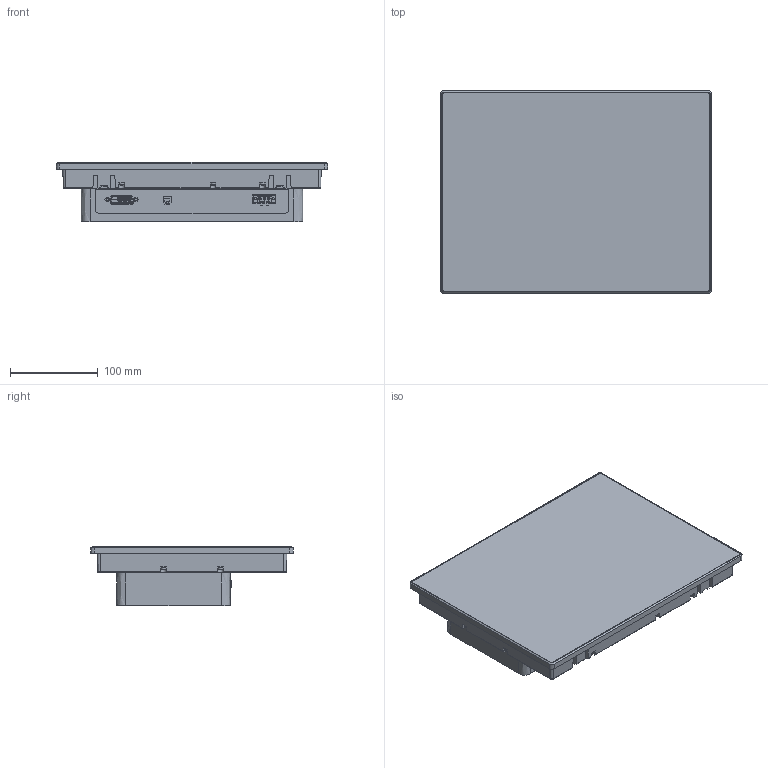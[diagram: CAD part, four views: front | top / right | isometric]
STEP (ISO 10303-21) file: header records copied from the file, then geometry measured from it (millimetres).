
FILE_DESCRIPTION((''),'2;1');
FILE_NAME('SIMPL_ASM_1_ASM_2_ASM','2021-06-02T09:37:44',('danae.lavaud'),(''),'CREO PARAMETRIC BY PTC INC, 2018260','CREO PARAMETRIC BY PTC INC, 2018260','');
FILE_SCHEMA(('CONFIG_CONTROL_DESIGN'));
Products named in the file (14): PRT0001_1_1_1_1_1; HUA1256901_1_1_1_1_1_1_2; HUA1145401_1_1_1_1_1_1_2; ASM0005_ASM_1_ASM_1_1_ASM_1_ASM_ASM; SCREW_MSC_XREC_PAN_M3X36_1_1_1_; ASM0005_ASM_1_ASM_1_ASM_1_ASM_1_ASM; PRT0001_1_1_1_1_1_1_7_1_1; DISPLAY_ADAPTER_20200611_1_2_10; DISPLAY_ADAPTER_20200611_1_2_12; DISPLAY_ADAPTER_20200611_1_2_11_ASM; BROCHE_ASM_1_ASM_1_ASM_1_ASM; SIMPL_ASM_1_ASM_1_ASM_1_ASM_1_A_ASM; PFXFP6600WCD_ASM_1_ASM_1_ASM; SIMPL_ASM_1_ASM_2_ASM
Assembly tree (34 placements, depth 6):
  SIMPL_ASM_1_ASM_2_ASM
    PFXFP6600WCD_ASM_1_ASM_1_ASM
      SIMPL_ASM_1_ASM_1_ASM_1_ASM_1_A_ASM
        PRT0001_1_1_1_1_1
        ASM0005_ASM_1_ASM_1_1_ASM_1_ASM_ASM
          HUA1256901_1_1_1_1_1_1_2  x14
          HUA1145401_1_1_1_1_1_1_2  x4
        ASM0005_ASM_1_ASM_1_ASM_1_ASM_1_ASM
          SCREW_MSC_XREC_PAN_M3X36_1_1_1_  x6
        PRT0001_1_1_1_1_1_1_7_1_1
        BROCHE_ASM_1_ASM_1_ASM_1_ASM
          DISPLAY_ADAPTER_20200611_1_2_11_ASM
            DISPLAY_ADAPTER_20200611_1_2_10
            DISPLAY_ADAPTER_20200611_1_2_12
Bounding box: 308.5 x 230.5 x 67.5 mm (x, y, z)
Volume: 3094706.1 mm3; surface area: 306050.3 mm2
Topology: 28 solids, 50 shells, 3951 faces, 11356 edges, 7350 vertices
Faces by surface type: plane 2382, cylinder 1153, cone 224, torus 112, sphere 48, extrusion 20, bspline 12
Entity records: 109540 total; most frequent: CARTESIAN_POINT 23198, ORIENTED_EDGE 18630, DIRECTION 17208, EDGE_CURVE 9332, VECTOR 7126, LINE 7106, VERTEX_POINT 6095, AXIS2_PLACEMENT_3D 5041
